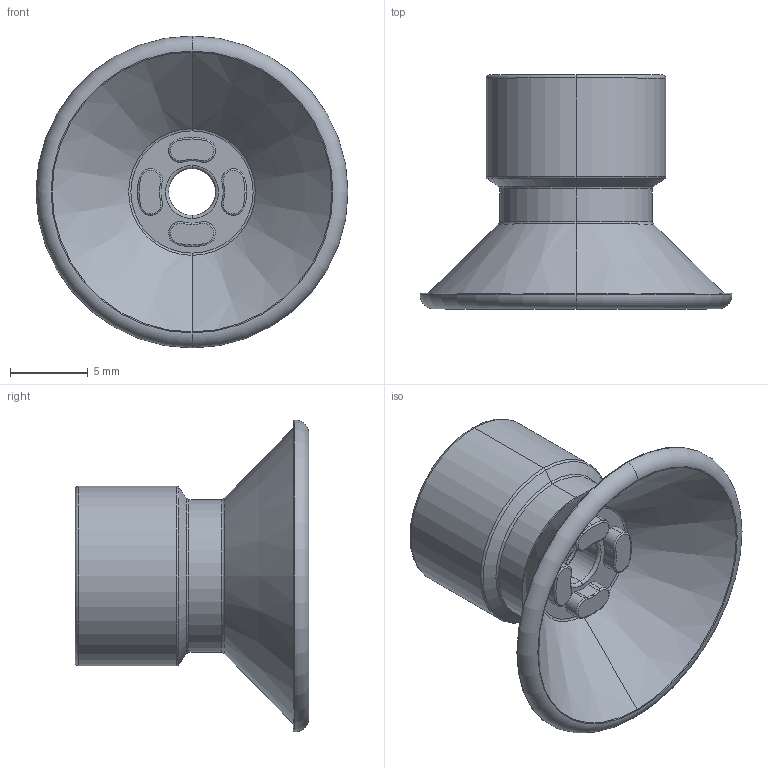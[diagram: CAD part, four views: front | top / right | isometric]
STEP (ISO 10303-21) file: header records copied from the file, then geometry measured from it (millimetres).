
FILE_DESCRIPTION (( 'STEP AP203' ), '1' );
FILE_NAME ('70C_20--A_(ind_A).STEP', '2016-09-08T07:04:07', ( '' ), ( '' ), 'SwSTEP 2.0', 'SolidWorks 2016', '' );
FILE_SCHEMA (( 'CONFIG_CONTROL_DESIGN' ));
Length unit declared in the file: millimetre
Products named in the file (1): 70C_20--A_(ind_A)
Bounding box: 20 x 15 x 20 mm (x, y, z)
Volume: 993.7 mm3; surface area: 1397.1 mm2
Topology: 1 solids, 1 shells, 108 faces, 236 edges, 138 vertices
Faces by surface type: torus 54, cylinder 36, plane 10, cone 8
Entity records: 3089 total; most frequent: DIRECTION 646, CARTESIAN_POINT 483, ORIENTED_EDGE 472, AXIS2_PLACEMENT_3D 301, EDGE_CURVE 236, CIRCLE 192, VERTEX_POINT 138, EDGE_LOOP 118
